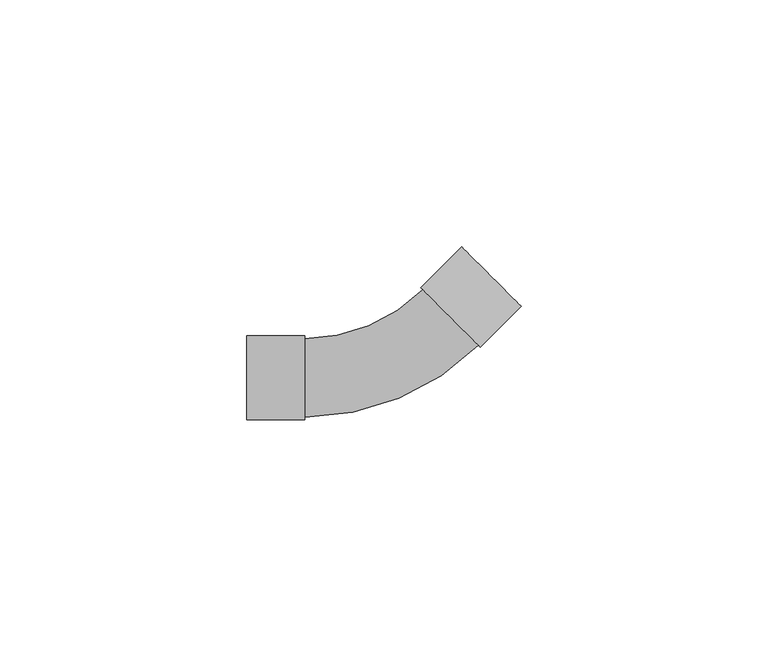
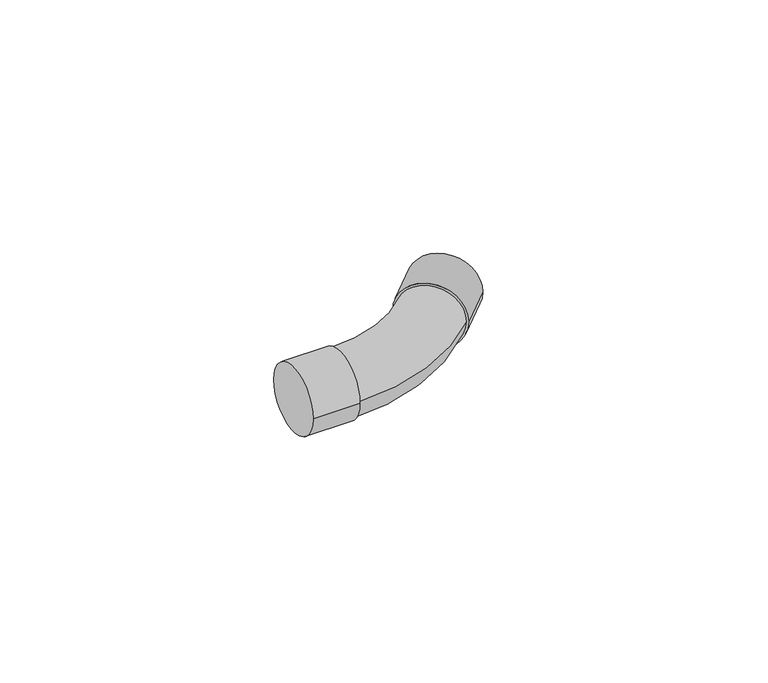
"""IFC4 building model written with IfcOpenShell, lengths in millimetres: pipe fitting geometry, Cotovelo - Soldado - CU : Padrão."""

from ifc_helpers import new_model, si_unit, point, frame, origin, place, context, project, spatial, circle_curve, ellipse_curve, trimmed, source, transform, mapped, element, save
from ifc_brep_helpers import plane_surface, cylinder_surface, revolved_surface, advanced_brep


def pipe_fitting_12686507(model_context):
    return source(origin(), model_context, "Body", "AdvancedBrep", [
        advanced_brep(
        [(6.6319545, 17.8749523, 0.0), (-17.329, 7.95, 0.0), (-17.329, -7.95, 0.0), (17.8749523, 6.6319545, 0.0), (-29.002, -8.509, 0.0), (-29.002, 8.509, 0.0), (-17.329, -8.509, 0.0), (-17.329, 8.509, 0.0), (14.4907393, 26.5242825, 0.0), (26.5242825, 14.4907393, 0.0), (6.2366818, 18.270225, 0.0), (18.270225, 6.2366818, 0.0)],
        [
            (0, 1, circle_curve(frame((-17.329, 41.8359068, 0.0), z_axis=(0.0, 0.0, -1.0), x_axis=(0.0, -1.0, 0.0)), 33.8859068)),
            (1, 2, circle_curve(frame((-17.329, 0.0, 0.0), z_axis=(1.0, 0.0, 0.0), x_axis=(0.0, 1.0, 0.0)), 7.95)),
            (2, 3, circle_curve(frame((-17.329, 41.8359068, 0.0), z_axis=(0.0, 0.0, 1.0), x_axis=(0.0, -1.0, 0.0)), 49.7859068)),
            (3, 0, circle_curve(frame((12.2534534, 12.2534534, 0.0), z_axis=(-0.7071067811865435, -0.7071067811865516, 0.0), x_axis=(-0.7071067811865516, 0.7071067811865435, 0.0)), 7.95)),
            (0, 3, circle_curve(frame((12.2534534, 12.2534534, 0.0), z_axis=(-0.7071067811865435, -0.7071067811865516, 0.0), x_axis=(-0.7071067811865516, 0.7071067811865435, 0.0)), 7.95)),
            (2, 1, circle_curve(frame((-17.329, 0.0, 0.0), z_axis=(1.0, 0.0, 0.0), x_axis=(0.0, 1.0, 0.0)), 7.95)),
            (4, 5, circle_curve(frame((-29.002, 0.0, 0.0), z_axis=(-1.0, 0.0, 0.0), x_axis=(0.0, 1.0, 0.0)), 8.509)),
            (5, 4, circle_curve(frame((-29.002, 0.0, 0.0), z_axis=(-1.0, 0.0, 0.0), x_axis=(0.0, 1.0, 0.0)), 8.509)),
            (6, 7, circle_curve(frame((-17.329, 0.0, 0.0), z_axis=(1.0, 0.0, 0.0), x_axis=(0.0, 1.0, 0.0)), 8.509)),
            (7, 6, circle_curve(frame((-17.329, 0.0, 0.0), z_axis=(1.0, 0.0, 0.0), x_axis=(0.0, 1.0, 0.0)), 8.509)),
            (4, 6),
            (7, 5),
            (8, 9, circle_curve(frame((20.5075109, 20.5075109, 0.0), z_axis=(0.7071067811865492, 0.7071067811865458, 0.0), x_axis=(0.7071067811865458, -0.7071067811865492, 0.0)), 8.509)),
            (9, 8, circle_curve(frame((20.5075109, 20.5075109, 0.0), z_axis=(0.7071067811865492, 0.7071067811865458, 0.0), x_axis=(0.7071067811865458, -0.7071067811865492, 0.0)), 8.509)),
            (10, 11, circle_curve(frame((12.2534534, 12.2534534, 0.0), z_axis=(-0.7071067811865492, -0.7071067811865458, 0.0), x_axis=(0.7071067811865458, -0.7071067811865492, 0.0)), 8.509)),
            (11, 10, circle_curve(frame((12.2534534, 12.2534534, 0.0), z_axis=(-0.7071067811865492, -0.7071067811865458, 0.0), x_axis=(0.7071067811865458, -0.7071067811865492, 0.0)), 8.509)),
            (8, 10),
            (11, 9),
        ],
        [
            revolved_surface(trimmed(ellipse_curve(frame((-17.329, 0.0, 0.0), z_axis=(-1.0, 0.0, 0.0), x_axis=(0.0, 1.0, 0.0)), 7.95, 7.95), [point((-17.329, -7.95, 0.0))], [point((-17.329, 7.95, 0.0))], True, "CARTESIAN"), (-17.329, 41.8359068, 0.0), (0.0, 0.0, 1.0)),
            revolved_surface(trimmed(ellipse_curve(frame((-17.329, 0.0, 0.0), z_axis=(-1.0, 0.0, 0.0), x_axis=(0.0, 1.0, 0.0)), 7.95, 7.95), [point((-17.329, 7.95, 0.0))], [point((-17.329, -7.95, 0.0))], True, "CARTESIAN"), (-17.329, 41.8359068, 0.0), (0.0, 0.0, 1.0)),
            plane_surface(frame((-29.002, 0.0, 0.0), z_axis=(-1.0, 0.0, 0.0), x_axis=(0.0, 0.0, 1.0))),
            plane_surface(frame((-17.329, 0.0, 0.0), z_axis=(1.0, 0.0, 0.0), x_axis=(0.0, 0.0, 1.0))),
            cylinder_surface(frame((-29.002, 0.0, 0.0), z_axis=(-1.0, 0.0, 0.0), x_axis=(0.0, 1.0, 0.0)), 8.509),
            plane_surface(frame((20.5075109, 20.5075109, 0.0), z_axis=(0.7071067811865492, 0.7071067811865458, 0.0), x_axis=(0.0, 0.0, 1.0))),
            plane_surface(frame((12.2534534, 12.2534534, 0.0), z_axis=(-0.7071067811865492, -0.7071067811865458, 0.0), x_axis=(0.0, 0.0, 1.0))),
            cylinder_surface(frame((20.5075109, 20.5075109, 0.0), z_axis=(0.7071067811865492, 0.7071067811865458, 0.0), x_axis=(0.7071067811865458, -0.7071067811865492, 0.0)), 8.509),
        ],
        [
            (0, [[1, 2, 3, 4]]),
            (1, [[-1, 5, -3, 6]]),
            (2, [[7, 8]]),
            (3, [[9, 10], [-2, -6]]),
            (4, [[-7, 11, -10, 12]]),
            (4, [[-8, -12, -9, -11]]),
            (5, [[13, 14]]),
            (6, [[15, 16], [-4, -5]]),
            (7, [[-13, 17, -16, 18]]),
            (7, [[-14, -18, -15, -17]]),
        ],
    ),
    ])


if __name__ == "__main__":
    model = new_model("IFC4")
    model_context = context("Model", 3, world=origin())
    ifc_project = project(units=[si_unit("LENGTHUNIT", "METRE", prefix="MILLI")], contexts=[model_context])
    site = spatial("IfcSite", under=ifc_project)
    building = spatial("IfcBuilding", under=site)
    placement = place(None, origin())
    pipe_fitting_shape = pipe_fitting_12686507(model_context)
    element("IfcPipeFitting", 1, ObjectType="Cotovelo - Soldado - CU : Padrão", at=placement, inside=building, context=model_context, shape_type="MappedRepresentation", body=[
        mapped(pipe_fitting_shape, transform((0.0, 0.0, 0.0), x_axis=(1.0, 0.0, 0.0), y_axis=(0.0, 1.0, 0.0), z_axis=(0.0, 0.0, 1.0))),
    ])
    save(model, "model.ifc")
